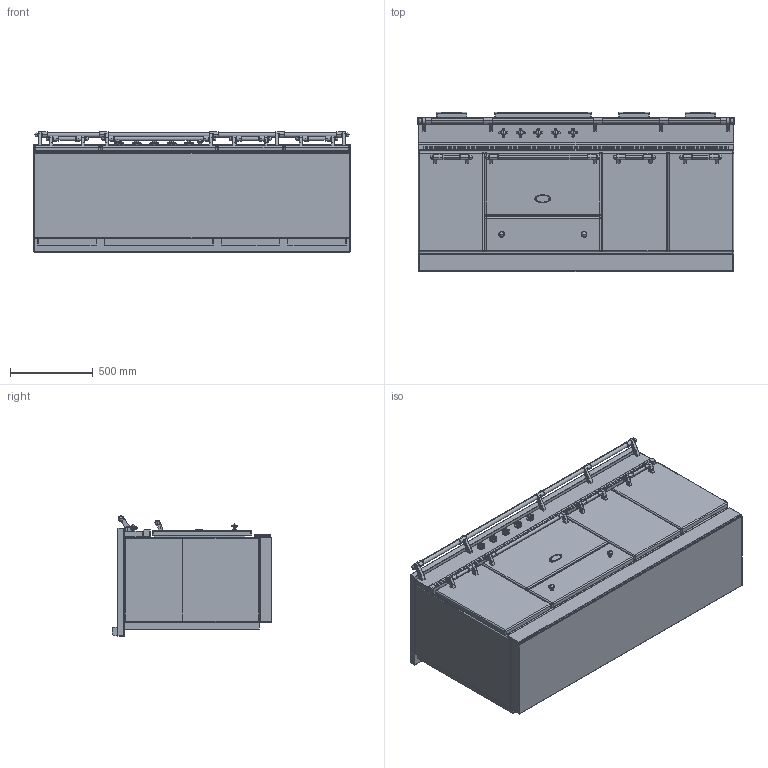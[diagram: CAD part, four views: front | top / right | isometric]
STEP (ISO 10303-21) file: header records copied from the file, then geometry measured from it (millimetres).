
FILE_DESCRIPTION((''),'2;1');
FILE_NAME('LVTR1941D_ASM','2021-12-08T08:51:11',('r.avril'),(''),'CREO PARAMETRIC BY PTC INC, 2017260','CREO PARAMETRIC BY PTC INC, 2017260','');
FILE_SCHEMA(('AP203_CONFIGURATION_CONTROLLED_3D_DESIGN_OF_MECHANICAL_PARTS_AND_ASSEMBLIES_MIM_LF { 1 0 10303 403 2 1 2 }'));
Products named in the file (21): BASE_EXPORT_FONTENAY_LVTR1941D; 65650003; 65650004; 65650006; 65650007; 6531940; 6531941; 6531943; 65049009; 65650001; 6538399; 1931942; 65080022_AF0; 6531942_ASM; BASE_EXPORT_FONTENAY_LVTR1941D_ASM; TABLE_1900D_INDUCTION_ET_VTR; 65052002; CHEMINEE_2020_LG582_EXPORT_STEP; CHEMINEE_2020_LG182_EXPORT_STEP; TABLE_1900D_VTR_ASM; LVTR1941D_ASM
Assembly tree (34 placements, depth 4):
  LVTR1941D_ASM
    BASE_EXPORT_FONTENAY_LVTR1941D_ASM
      BASE_EXPORT_FONTENAY_LVTR1941D
      65650003
      65650004
      65650006  x2
      65650007
      6531940  x4
      6531941  x4
      6531943  x2
      65049009
      65650001
      6531942_ASM  x5
        6538399
        1931942
        65080022_AF0
    TABLE_1900D_VTR_ASM
      TABLE_1900D_INDUCTION_ET_VTR
      65052002
      CHEMINEE_2020_LG582_EXPORT_STEP
      CHEMINEE_2020_LG182_EXPORT_STEP  x3
Bounding box: 1905 x 963 x 724 mm (x, y, z)
Volume: 703301455.6 mm3; surface area: 16464909.2 mm2
Topology: 48 solids, 63 shells, 5150 faces, 13875 edges, 8858 vertices
Faces by surface type: plane 2493, cylinder 1865, torus 258, sphere 170, extrusion 142, bspline 111, cone 91, revolution 20
Entity records: 115199 total; most frequent: CARTESIAN_POINT 25364, DIRECTION 16156, ORIENTED_EDGE 16104, EDGE_CURVE 8066, AXIS2_PLACEMENT_3D 5454, VERTEX_POINT 5195, VECTOR 5180, LINE 5150
